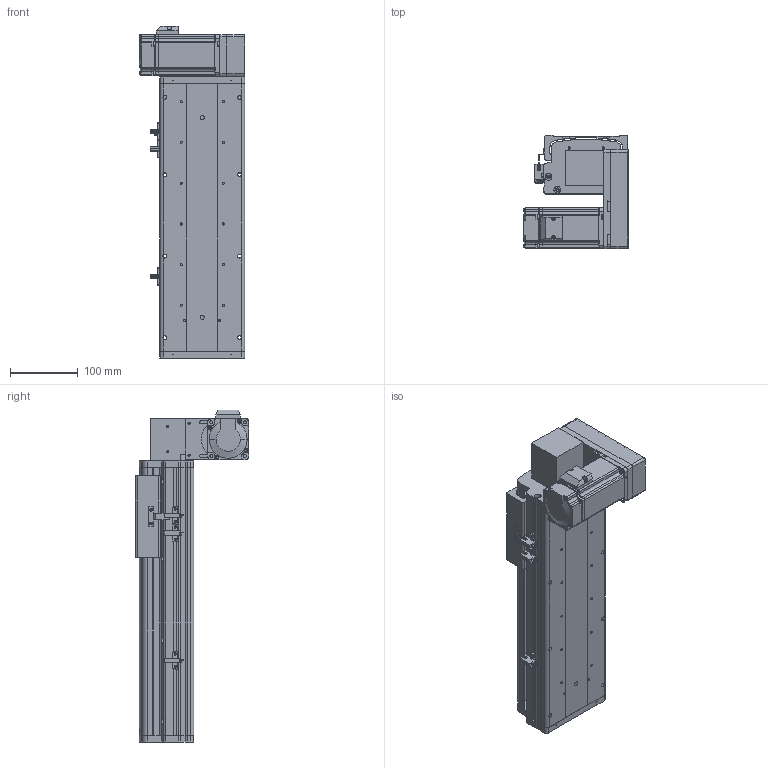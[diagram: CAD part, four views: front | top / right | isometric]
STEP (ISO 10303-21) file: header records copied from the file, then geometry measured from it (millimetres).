
FILE_DESCRIPTION (( 'STEP AP214' ), '1' );
FILE_NAME ('KSD125B-S200-MLD-CM.STEP', '2017-10-21T02:10:27', ( '微软用户' ), ( '微软中国' ), 'SwSTEP 2.0', 'SolidWorks 2014', '' );
FILE_SCHEMA (( 'AUTOMOTIVE_DESIGN' ));
Length unit declared in the file: millimetre
Products named in the file (17): KSD125B-S200-MLD-CM; 悵誘欶奻狟殏; 100宽马达安装板连板上下折丝杆同步带; HTPA30S3M150_A_H6_a佪裝蚚; HTPA30S3M150_A_H6_a萇儂蚚; 100宽马达安装板同步带左; KSD125模组200行程同步带-防尘盖; 125模组200行程同步带-底板; MHMD042G1CA_2_03; KSD125模组同步带-防撞垫2; 覜茼え68遵圉猾敕; U倰嫖萇假蚾璃; U倰嫖萇EEㄜSX672; KSD125模组同步带-防撞垫1; 前端板-125宽模组同步带; 125模组同步带-尾端板1; KSD125模组同步带-滑动座1
Assembly tree (20 placements, depth 2):
  KSD125B-S200-MLD-CM
    KSD125模组同步带-滑动座1
    125模组同步带-尾端板1
    前端板-125宽模组同步带
    KSD125模组同步带-防撞垫1
    U倰嫖萇EEㄜSX672  x3
    U倰嫖萇假蚾璃  x3
    覜茼え68遵圉猾敕
    KSD125模组同步带-防撞垫2
    MHMD042G1CA_2_03
    125模组200行程同步带-底板
    KSD125模组200行程同步带-防尘盖
    100宽马达安装板同步带左
    HTPA30S3M150_A_H6_a萇儂蚚
    HTPA30S3M150_A_H6_a佪裝蚚
    100宽马达安装板连板上下折丝杆同步带
    悵誘欶奻狟殏
Bounding box: 155 x 166.5 x 489 mm (x, y, z)
Volume: 1789825.3 mm3; surface area: 647845.5 mm2
Topology: 19 solids, 22 shells, 2199 faces, 6361 edges, 4202 vertices
Faces by surface type: cylinder 1356, plane 716, cone 105, bspline 22
Entity records: 77651 total; most frequent: CARTESIAN_POINT 15387, DIRECTION 12086, ORIENTED_EDGE 11242, EDGE_CURVE 5699, AXIS2_PLACEMENT_3D 4653, VERTEX_POINT 3794, VECTOR 2780, LINE 2780
